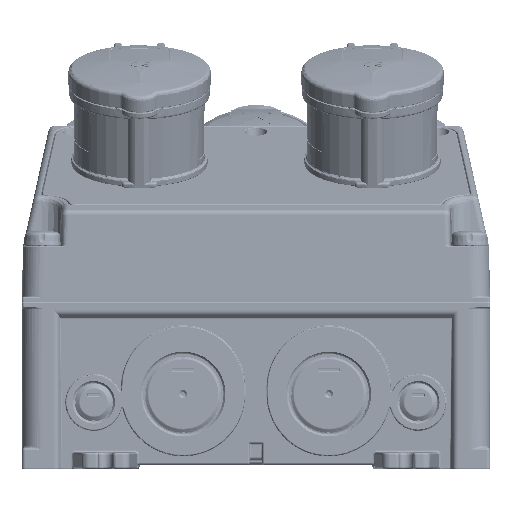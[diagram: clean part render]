
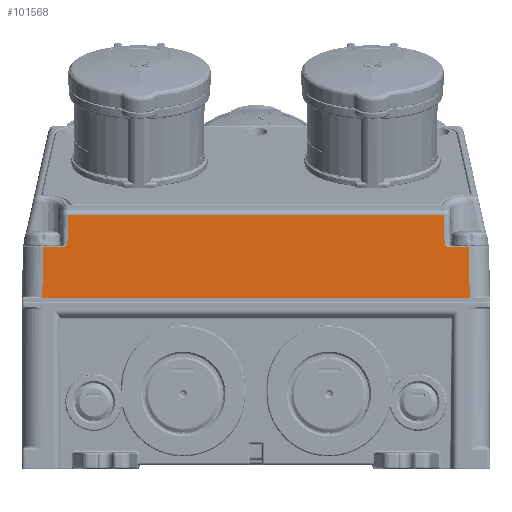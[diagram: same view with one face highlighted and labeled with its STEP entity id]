
A CAD part, front view. The second image highlights one B-rep face of the part: STEP entity #101568.
In plain terms, the highlighted planar face has unit normal (0, -1, 0.018).
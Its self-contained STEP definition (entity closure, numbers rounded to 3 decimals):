
#8607=DIRECTION('',(1.,0.,0.));
#8608=VECTOR('',#8607,223.);
#8609=CARTESIAN_POINT('',(1.,0.,82.));
#8610=LINE('44195',#8609,#8608);
#8778=DIRECTION('',(-0.012,0.017,1.));
#8779=VECTOR('',#8778,0.059);
#8780=CARTESIAN_POINT('',(224.,0.,82.));
#8781=LINE('44237',#8780,#8779);
#8797=CARTESIAN_POINT('',(223.999,0.001,82.059));
#8852=CARTESIAN_POINT('',(215.25,0.001,82.059));
#8863=DIRECTION('',(-1.,0.,0.));
#8864=VECTOR('',#8863,8.749);
#8865=CARTESIAN_POINT('',(223.999,0.001,82.059));
#8866=LINE('44254',#8865,#8864);
#8867=DIRECTION('',(0.017,0.017,1.));
#8868=VECTOR('',#8867,24.457);
#8869=CARTESIAN_POINT('',(9.75,0.001,82.059));
#8870=LINE('44256',#8869,#8868);
#8871=DIRECTION('',(0.009,0.017,1.));
#8872=VECTOR('',#8871,14.45);
#8873=CARTESIAN_POINT('',(21.854,0.445,107.491));
#8874=LINE('44259',#8873,#8872);
#8875=DIRECTION('',(0.009,-0.017,-1.));
#8876=VECTOR('',#8875,14.45);
#8877=CARTESIAN_POINT('',(203.02,0.697,121.939));
#8878=LINE('44261',#8877,#8876);
#8879=DIRECTION('',(0.017,-0.017,-1.));
#8880=VECTOR('',#8879,24.457);
#8881=CARTESIAN_POINT('',(214.824,0.428,106.509));
#8882=LINE('44264',#8881,#8880);
#8890=DIRECTION('',(-1.,0.,0.));
#8891=VECTOR('',#8890,8.749);
#8892=CARTESIAN_POINT('',(9.75,0.001,82.059));
#8893=LINE('44255',#8892,#8891);
#9003=DIRECTION('',(-0.012,-0.017,-1.));
#9004=VECTOR('',#9003,0.059);
#9005=CARTESIAN_POINT('',(1.001,0.001,82.059));
#9006=LINE('44265',#9005,#9004);
#9887=CARTESIAN_POINT('',(205.578,0.428,106.509));
#9888=CARTESIAN_POINT('',(205.518,0.428,106.509));
#9889=CARTESIAN_POINT('',(205.394,0.428,106.514));
#9890=CARTESIAN_POINT('',(205.196,0.428,106.539));
#9891=CARTESIAN_POINT('',(204.979,0.429,106.584));
#9892=CARTESIAN_POINT('',(204.739,0.43,106.653));
#9893=CARTESIAN_POINT('',(204.474,0.432,106.752));
#9894=CARTESIAN_POINT('',(204.184,0.434,106.883));
#9895=CARTESIAN_POINT('',(203.869,0.437,107.049));
#9896=CARTESIAN_POINT('',(203.526,0.441,107.252));
#9897=CARTESIAN_POINT('',(203.277,0.443,107.409));
#9898=CARTESIAN_POINT('',(203.146,0.445,107.491));
#9904=DIRECTION('',(-1.,0.,0.));
#9905=VECTOR('',#9904,9.246);
#9906=CARTESIAN_POINT('',(214.824,0.428,106.509));
#9907=LINE('44263',#9906,#9905);
#9940=DIRECTION('',(-1.,0.,0.));
#9941=VECTOR('',#9940,181.04);
#9942=CARTESIAN_POINT('',(203.02,0.697,121.939));
#9943=LINE('44260',#9942,#9941);
#10331=CARTESIAN_POINT('',(21.854,0.445,
107.491));
#10332=CARTESIAN_POINT('',(21.723,0.443,
107.409));
#10333=CARTESIAN_POINT('',(21.474,0.441,
107.252));
#10334=CARTESIAN_POINT('',(21.131,0.437,
107.05));
#10335=CARTESIAN_POINT('',(20.816,0.434,
106.883));
#10336=CARTESIAN_POINT('',(20.526,0.432,
106.752));
#10337=CARTESIAN_POINT('',(20.261,0.43,
106.653));
#10338=CARTESIAN_POINT('',(20.022,0.429,
106.584));
#10339=CARTESIAN_POINT('',(19.804,0.428,
106.539));
#10340=CARTESIAN_POINT('',(19.605,0.428,
106.514));
#10341=CARTESIAN_POINT('',(19.482,0.428,
106.509));
#10342=CARTESIAN_POINT('',(19.422,0.428,
106.509));
#10353=DIRECTION('',(-1.,0.,0.));
#10354=VECTOR('',#10353,9.246);
#10355=CARTESIAN_POINT('',(19.422,0.428,
106.509));
#10356=LINE('44257',#10355,#10354);
#73136=CARTESIAN_POINT('',(1.,0.,
82.));
#73137=VERTEX_POINT('',#73136);
#73138=CARTESIAN_POINT('',(224.,0.,
82.));
#73139=VERTEX_POINT('',#73138);
#73185=VERTEX_POINT('',#8797);
#73203=VERTEX_POINT('',#8852);
#73204=CARTESIAN_POINT('',(9.75,0.001,
82.059));
#73205=CARTESIAN_POINT('',(1.001,0.001,
82.059));
#73206=VERTEX_POINT('',#73204);
#73207=VERTEX_POINT('',#73205);
#73208=CARTESIAN_POINT('',(10.176,0.428,
106.509));
#73209=VERTEX_POINT('',#73208);
#73210=CARTESIAN_POINT('',(19.422,0.428,
106.509));
#73211=VERTEX_POINT('',#73210);
#73212=VERTEX_POINT('',#10331);
#73213=CARTESIAN_POINT('',(21.98,0.697,
121.939));
#73214=VERTEX_POINT('',#73213);
#73215=CARTESIAN_POINT('',(203.02,0.697,
121.939));
#73216=VERTEX_POINT('',#73215);
#73217=CARTESIAN_POINT('',(203.146,0.445,
107.491));
#73218=VERTEX_POINT('',#73217);
#73219=VERTEX_POINT('',#9887);
#73220=CARTESIAN_POINT('',(214.824,0.428,
106.509));
#73221=VERTEX_POINT('',#73220);
#101536=CARTESIAN_POINT('',(0.,0.733,124.));
#101537=DIRECTION('',(0.,-1.,0.017));
#101538=DIRECTION('',(0.,-0.017,-1.));
#101539=AXIS2_PLACEMENT_3D('',#101536,#101537,#101538);
#101540=PLANE('55587',#101539);
#101542=ORIENTED_EDGE('44255',*,*,#101541,.F.);
#101544=ORIENTED_EDGE('44256',*,*,#101543,.T.);
#101546=ORIENTED_EDGE('44257',*,*,#101545,.F.);
#101548=ORIENTED_EDGE('44258',*,*,#101547,.F.);
#101550=ORIENTED_EDGE('44259',*,*,#101549,.T.);
#101552=ORIENTED_EDGE('44260',*,*,#101551,.F.);
#101554=ORIENTED_EDGE('44261',*,*,#101553,.T.);
#101556=ORIENTED_EDGE('44262',*,*,#101555,.F.);
#101558=ORIENTED_EDGE('44263',*,*,#101557,.F.);
#101560=ORIENTED_EDGE('44264',*,*,#101559,.T.);
#101561=ORIENTED_EDGE('44254',*,*,#101524,.F.);
#101562=ORIENTED_EDGE('44237',*,*,#101348,.F.);
#101563=ORIENTED_EDGE('44195',*,*,#100958,.F.);
#101565=ORIENTED_EDGE('44265',*,*,#101564,.F.);
#101566=EDGE_LOOP('55587',(#101542,#101544,#101546,#101548,#101550,#101552,
#101554,#101556,#101558,#101560,#101561,#101562,#101563,#101565));
#101567=FACE_OUTER_BOUND('55587',#101566,.F.);
#9899=B_SPLINE_CURVE_WITH_KNOTS('44262',3,(#9887,#9888,#9889,#9890,#9891,#9892,
#9893,#9894,#9895,#9896,#9897,#9898),.UNSPECIFIED.,.F.,.F.,(4,1,1,1,1,1,1,1,1,
4),(0.,0.111,0.222,0.333,
0.444,0.556,0.667,0.778,
0.889,1.),.UNSPECIFIED.);
#10343=B_SPLINE_CURVE_WITH_KNOTS('44258',3,(#10331,#10332,#10333,#10334,#10335,
#10336,#10337,#10338,#10339,#10340,#10341,#10342),.UNSPECIFIED.,.F.,.F.,(4,1,1,
1,1,1,1,1,1,4),(0.,0.111,0.222,0.333,
0.444,0.556,0.667,0.778,
0.889,1.),.UNSPECIFIED.);
#100958=EDGE_CURVE('44195',#73137,#73139,#8610,.T.);
#101348=EDGE_CURVE('44237',#73139,#73185,#8781,.T.);
#101524=EDGE_CURVE('44254',#73185,#73203,#8866,.T.);
#101541=EDGE_CURVE('44255',#73206,#73207,#8893,.T.);
#101543=EDGE_CURVE('44256',#73206,#73209,#8870,.T.);
#101545=EDGE_CURVE('44257',#73211,#73209,#10356,.T.);
#101547=EDGE_CURVE('44258',#73212,#73211,#10343,.T.);
#101549=EDGE_CURVE('44259',#73212,#73214,#8874,.T.);
#101551=EDGE_CURVE('44260',#73216,#73214,#9943,.T.);
#101553=EDGE_CURVE('44261',#73216,#73218,#8878,.T.);
#101555=EDGE_CURVE('44262',#73219,#73218,#9899,.T.);
#101557=EDGE_CURVE('44263',#73221,#73219,#9907,.T.);
#101559=EDGE_CURVE('44264',#73221,#73203,#8882,.T.);
#101564=EDGE_CURVE('44265',#73207,#73137,#9006,.T.);
#101568=ADVANCED_FACE('55587',(#101567),#101540,.T.);
